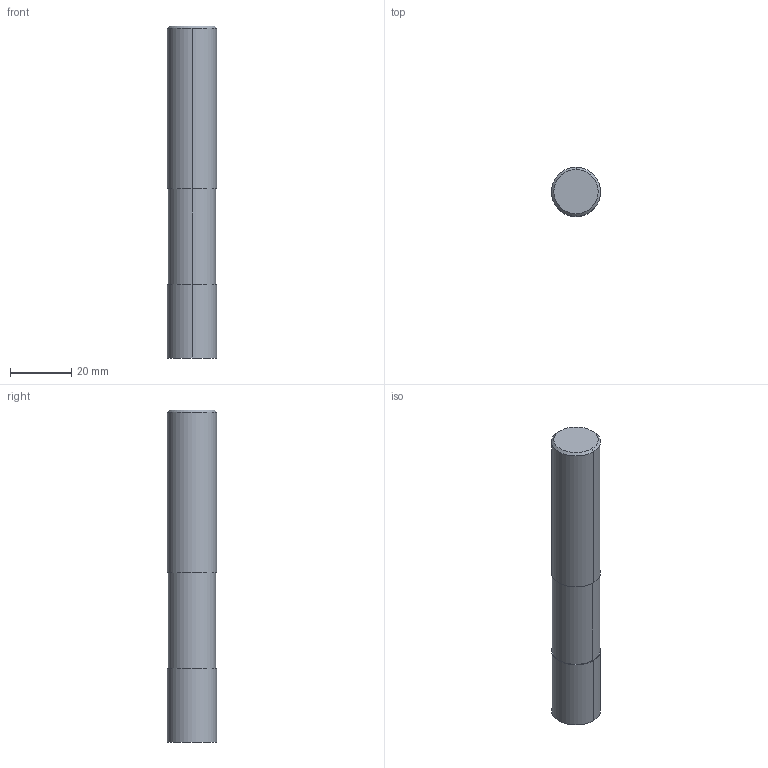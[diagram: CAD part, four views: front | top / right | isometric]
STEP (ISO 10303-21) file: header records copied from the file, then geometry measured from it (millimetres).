
FILE_DESCRIPTION((''),'2;1');
FILE_NAME('DIN4003_82_HEURO','2016-04-11T',('automc'),(''),'PRO/ENGINEER BY PARAMETRIC TECHNOLOGY CORPORATION, 2015280','PRO/ENGINEER BY PARAMETRIC TECHNOLOGY CORPORATION, 2015280','');
FILE_SCHEMA(('AUTOMOTIVE_DESIGN { 1 0 10303 214 1 1 1 1 }'));
Length unit declared in the file: millimetre
Products named in the file (1): DIN4003_82_HEURO
Bounding box: 16 x 16 x 108 mm (x, y, z)
Volume: 21315.8 mm3; surface area: 5782.5 mm2
Topology: 1 solids, 1 shells, 12 faces, 24 edges, 17 vertices
Faces by surface type: bspline 12
Entity records: 704 total; most frequent: CARTESIAN_POINT 219, DIRECTION 68, ORIENTED_EDGE 44, AXIS2_PLACEMENT_3D 26, PRESENTATION_STYLE_ASSIGNMENT 23, STYLED_ITEM 23, EDGE_CURVE 22, VECTOR 16
